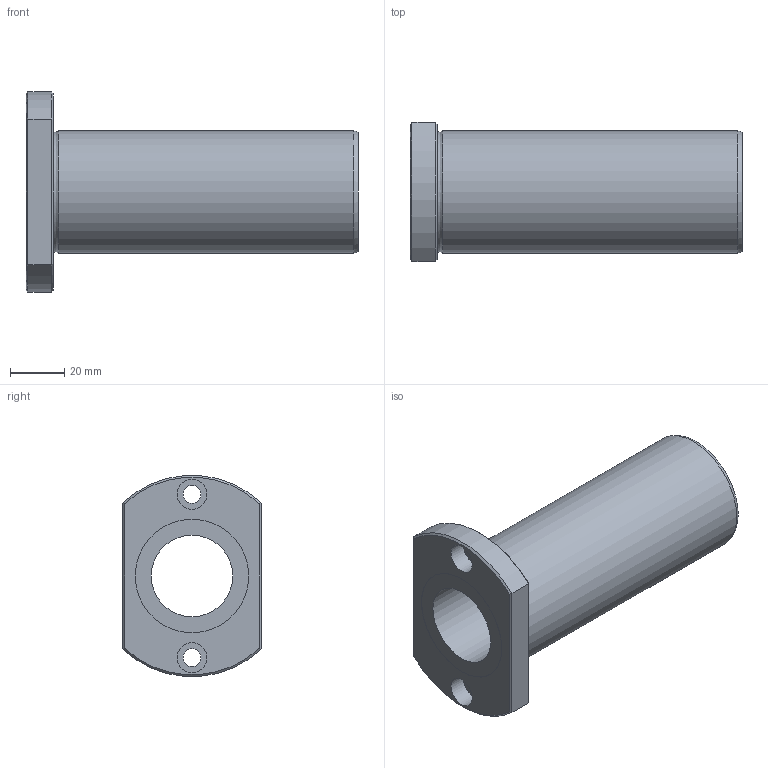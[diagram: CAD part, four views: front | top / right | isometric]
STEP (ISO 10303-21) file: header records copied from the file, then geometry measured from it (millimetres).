
FILE_DESCRIPTION((''),'2;1');
FILE_NAME('D:\製品 (図面)\カタログ用3D\リニアベアリング関連\STEP形式\LFDT\LFDT30.stp','2010-06-03T09:46:55',('Tsuchiya'),(''),'Autodesk Inventor 10','Autodesk Inventor 10','');
FILE_SCHEMA(('AUTOMOTIVE_DESIGN { 1 0 10303 214 1 1 1 1 }'));
Length unit declared in the file: millimetre
Products named in the file (1): LFDT30
Bounding box: 122 x 51 x 73.74 mm (x, y, z)
Volume: 124495.1 mm3; surface area: 35283.3 mm2
Topology: 1 solids, 1 shells, 29 faces, 56 edges, 34 vertices
Faces by surface type: plane 13, cylinder 10, cone 4, torus 1, bspline 1
Full cylindrical faces by diameter (mm): 6.6 x2, 11 x2, 30 x1, 41.7 x2, 45 x1
Entity records: 787 total; most frequent: CARTESIAN_POINT 196, DIRECTION 122, ORIENTED_EDGE 92, AXIS2_PLACEMENT_3D 55, EDGE_LOOP 50, EDGE_CURVE 46, VERTEX_POINT 34, FACE_OUTER_BOUND 29
